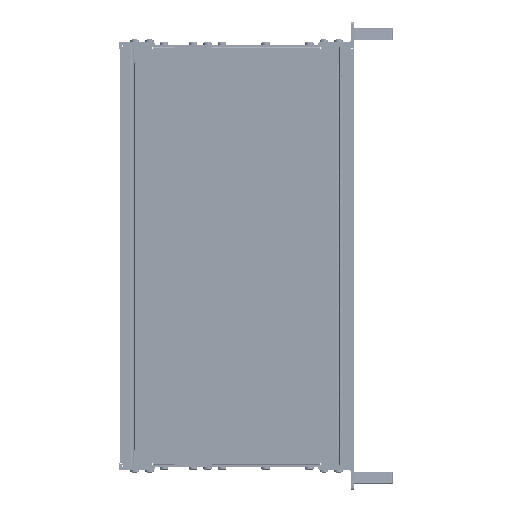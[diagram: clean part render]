
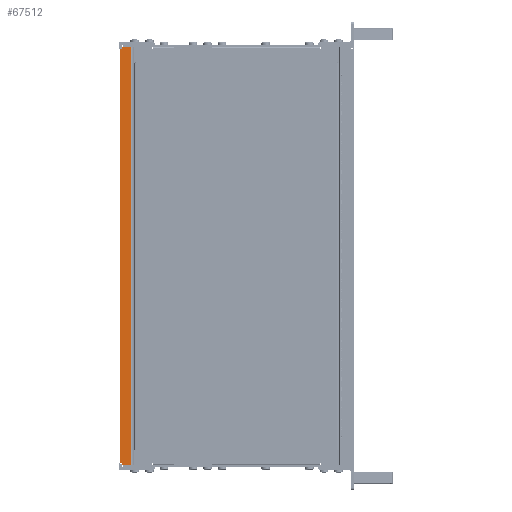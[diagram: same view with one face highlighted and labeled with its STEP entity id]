
A CAD part, front view. The second image highlights one B-rep face of the part: STEP entity #67512.
In plain terms, the highlighted planar face has unit normal (0, -1, 0).
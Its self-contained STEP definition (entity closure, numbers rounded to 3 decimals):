
#859 = VECTOR ( 'NONE', #234099, 1000. ) ;
#5931 = LINE ( 'NONE', #155842, #326007 ) ;
#9205 = VERTEX_POINT ( 'NONE', #289662 ) ;
#22133 = ORIENTED_EDGE ( 'NONE', *, *, #295049, .T. ) ;
#22284 = DIRECTION ( 'NONE',  ( 0., -1., 0. ) ) ;
#30661 = VERTEX_POINT ( 'NONE', #360842 ) ;
#39084 = CARTESIAN_POINT ( 'NONE',  ( 215.9, -9.4, 10.9 ) ) ;
#39768 = LINE ( 'NONE', #49632, #63880 ) ;
#41407 = ORIENTED_EDGE ( 'NONE', *, *, #221163, .T. ) ;
#48452 = VERTEX_POINT ( 'NONE', #239954 ) ;
#48739 = VECTOR ( 'NONE', #393515, 1000. ) ;
#49632 = CARTESIAN_POINT ( 'NONE',  ( 215.9, -9.4, 10.9 ) ) ;
#55991 = CARTESIAN_POINT ( 'NONE',  ( -213.3, -9.4, 10.9 ) ) ;
#63880 = VECTOR ( 'NONE', #111891, 1000. ) ;
#67512 = ADVANCED_FACE ( 'NONE', ( #225405 ), #239090, .T. ) ;
#79278 = DIRECTION ( 'NONE',  ( 0., 0., -1. ) ) ;
#80586 = CARTESIAN_POINT ( 'NONE',  ( 215.9, -9.4, 20.25 ) ) ;
#95862 = ORIENTED_EDGE ( 'NONE', *, *, #185514, .T. ) ;
#96289 = CARTESIAN_POINT ( 'NONE',  ( 215.9, -9.4, 23.05 ) ) ;
#100977 = VECTOR ( 'NONE', #175471, 1000. ) ;
#110761 = LINE ( 'NONE', #80586, #100977 ) ;
#111891 = DIRECTION ( 'NONE',  ( 1., 0., 0. ) ) ;
#115778 = CARTESIAN_POINT ( 'NONE',  ( 215.9, -9.4, 10.9 ) ) ;
#132030 = ORIENTED_EDGE ( 'NONE', *, *, #251324, .T. ) ;
#134240 = AXIS2_PLACEMENT_3D ( 'NONE', #115778, #22284, #79278 ) ;
#140670 = CARTESIAN_POINT ( 'NONE',  ( 213.3, -9.4, 23.05 ) ) ;
#146498 = LINE ( 'NONE', #55991, #228886 ) ;
#155842 = CARTESIAN_POINT ( 'NONE',  ( 213.3, -9.4, 10.9 ) ) ;
#165627 = VECTOR ( 'NONE', #313936, 1000. ) ;
#175471 = DIRECTION ( 'NONE',  ( -1., 0., 0. ) ) ;
#178134 = CARTESIAN_POINT ( 'NONE',  ( 215.9, -9.4, 20.25 ) ) ;
#181999 = LINE ( 'NONE', #96289, #395343 ) ;
#185514 = EDGE_CURVE ( 'NONE', #307276, #191361, #5931, .T. ) ;
#187354 = ORIENTED_EDGE ( 'NONE', *, *, #206092, .T. ) ;
#188958 = ORIENTED_EDGE ( 'NONE', *, *, #276333, .T. ) ;
#191361 = VERTEX_POINT ( 'NONE', #140670 ) ;
#193352 = CARTESIAN_POINT ( 'NONE',  ( 215.9, -9.4, 10.9 ) ) ;
#199219 = LINE ( 'NONE', #178134, #48739 ) ;
#203262 = CARTESIAN_POINT ( 'NONE',  ( -213.3, -9.4, 20.25 ) ) ;
#206092 = EDGE_CURVE ( 'NONE', #191361, #30661, #181999, .T. ) ;
#217022 = DIRECTION ( 'NONE',  ( -1., 0., 0. ) ) ;
#218117 = DIRECTION ( 'NONE',  ( 0., 0., 1. ) ) ;
#218961 = LINE ( 'NONE', #295107, #859 ) ;
#220322 = EDGE_CURVE ( 'NONE', #9205, #298109, #218961, .T. ) ;
#221163 = EDGE_CURVE ( 'NONE', #30661, #323654, #146498, .T. ) ;
#225405 = FACE_OUTER_BOUND ( 'NONE', #395771, .T. ) ;
#228886 = VECTOR ( 'NONE', #299906, 1000. ) ;
#229239 = CARTESIAN_POINT ( 'NONE',  ( -215.9, -9.4, 10.9 ) ) ;
#234099 = DIRECTION ( 'NONE',  ( 0., 0., -1. ) ) ;
#239090 = PLANE ( 'NONE',  #134240 ) ;
#239954 = CARTESIAN_POINT ( 'NONE',  ( 215.9, -9.4, 20.25 ) ) ;
#249376 = ORIENTED_EDGE ( 'NONE', *, *, #372214, .T. ) ;
#251324 = EDGE_CURVE ( 'NONE', #298109, #339383, #39768, .T. ) ;
#276333 = EDGE_CURVE ( 'NONE', #48452, #307276, #110761, .T. ) ;
#289662 = CARTESIAN_POINT ( 'NONE',  ( -215.9, -9.4, 20.25 ) ) ;
#295049 = EDGE_CURVE ( 'NONE', #339383, #48452, #393468, .T. ) ;
#295107 = CARTESIAN_POINT ( 'NONE',  ( -215.9, -9.4, 10.9 ) ) ;
#298109 = VERTEX_POINT ( 'NONE', #229239 ) ;
#299906 = DIRECTION ( 'NONE',  ( 0., 0., -1. ) ) ;
#307276 = VERTEX_POINT ( 'NONE', #329586 ) ;
#313936 = DIRECTION ( 'NONE',  ( 0., 0., 1. ) ) ;
#323654 = VERTEX_POINT ( 'NONE', #203262 ) ;
#326007 = VECTOR ( 'NONE', #218117, 1000. ) ;
#329586 = CARTESIAN_POINT ( 'NONE',  ( 213.3, -9.4, 20.25 ) ) ;
#339383 = VERTEX_POINT ( 'NONE', #39084 ) ;
#360842 = CARTESIAN_POINT ( 'NONE',  ( -213.3, -9.4, 23.05 ) ) ;
#372214 = EDGE_CURVE ( 'NONE', #323654, #9205, #199219, .T. ) ;
#391090 = ORIENTED_EDGE ( 'NONE', *, *, #220322, .T. ) ;
#393468 = LINE ( 'NONE', #193352, #165627 ) ;
#393515 = DIRECTION ( 'NONE',  ( -1., 0., 0. ) ) ;
#395343 = VECTOR ( 'NONE', #217022, 1000. ) ;
#395771 = EDGE_LOOP ( 'NONE', ( #132030, #22133, #188958, #95862, #187354, #41407, #249376, #391090 ) ) ;
